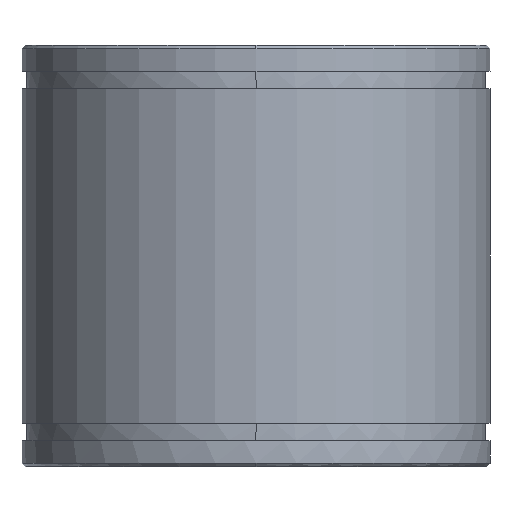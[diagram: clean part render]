
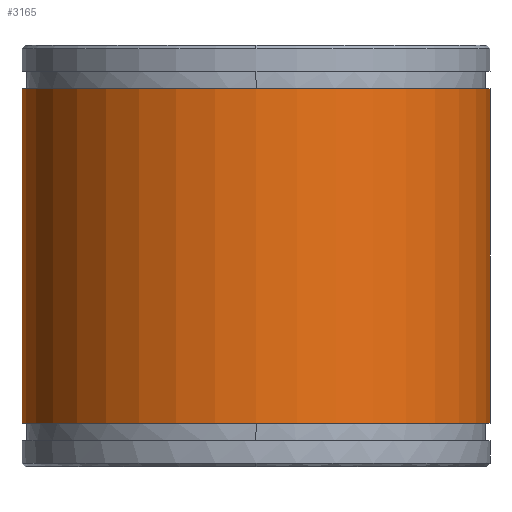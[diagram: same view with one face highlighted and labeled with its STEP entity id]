
A CAD part, front view. The second image highlights one B-rep face of the part: STEP entity #3165.
In plain terms, the highlighted cylindrical face has radius 35 mm (diameter 70 mm), a partial arc.
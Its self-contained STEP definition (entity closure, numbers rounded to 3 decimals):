
#2898=CARTESIAN_POINT('Axis2P3D Location',(0.,0.,56.5)) ;
#2902=CARTESIAN_POINT('Vertex',(-35.,0.,56.5)) ;
#2904=CARTESIAN_POINT('Vertex',(35.,0.,56.5)) ;
#3135=CARTESIAN_POINT('Axis2P3D Location',(0.,0.,-3.15)) ;
#3140=CARTESIAN_POINT('Line Origine',(35.,0.,-3.15)) ;
#3144=CARTESIAN_POINT('Vertex',(35.,0.,6.5)) ;
#3147=CARTESIAN_POINT('Line Origine',(-35.,0.,-3.15)) ;
#3151=CARTESIAN_POINT('Vertex',(-35.,0.,6.5)) ;
#3154=CARTESIAN_POINT('Axis2P3D Location',(0.,0.,6.5)) ;
#2899=DIRECTION('Axis2P3D Direction',(0.,-0.,1.)) ;
#3136=DIRECTION('Axis2P3D Direction',(0.,0.,1.)) ;
#3137=DIRECTION('Axis2P3D XDirection',(-1.,0.,0.)) ;
#3141=DIRECTION('Vector Direction',(0.,0.,1.)) ;
#3148=DIRECTION('Vector Direction',(0.,0.,1.)) ;
#3155=DIRECTION('Axis2P3D Direction',(0.,0.,1.)) ;
#2900=AXIS2_PLACEMENT_3D('Circle Axis2P3D',#2898,#2899,$) ;
#3138=AXIS2_PLACEMENT_3D('Cylinder Axis2P3D',#3135,#3136,#3137) ;
#3156=AXIS2_PLACEMENT_3D('Circle Axis2P3D',#3154,#3155,$) ;
#3160=ORIENTED_EDGE('',*,*,#3146,.F.) ;
#3161=ORIENTED_EDGE('',*,*,#2906,.F.) ;
#3162=ORIENTED_EDGE('',*,*,#3153,.T.) ;
#3163=ORIENTED_EDGE('',*,*,#3158,.F.) ;
#3142=VECTOR('Line Direction',#3141,1.) ;
#3149=VECTOR('Line Direction',#3148,1.) ;
#3165=ADVANCED_FACE('MANIFOLD_SOLID_BREP #2798',(#3164),#3139,.T.) ;
#2901=CIRCLE('generated circle',#2900,35.) ;
#3157=CIRCLE('generated circle',#3156,35.) ;
#3139=CYLINDRICAL_SURFACE('generated cylinder',#3138,35.) ;
#2906=EDGE_CURVE('',#2903,#2905,#2901,.T.) ;
#3146=EDGE_CURVE('',#2905,#3145,#3143,.F.) ;
#3153=EDGE_CURVE('',#2903,#3152,#3150,.F.) ;
#3158=EDGE_CURVE('',#3145,#3152,#3157,.F.) ;
#3159=EDGE_LOOP('',(#3160,#3161,#3162,#3163)) ;
#3164=FACE_OUTER_BOUND('',#3159,.T.) ;
#3143=LINE('Line',#3140,#3142) ;
#3150=LINE('Line',#3147,#3149) ;
#2903=VERTEX_POINT('',#2902) ;
#2905=VERTEX_POINT('',#2904) ;
#3145=VERTEX_POINT('',#3144) ;
#3152=VERTEX_POINT('',#3151) ;
